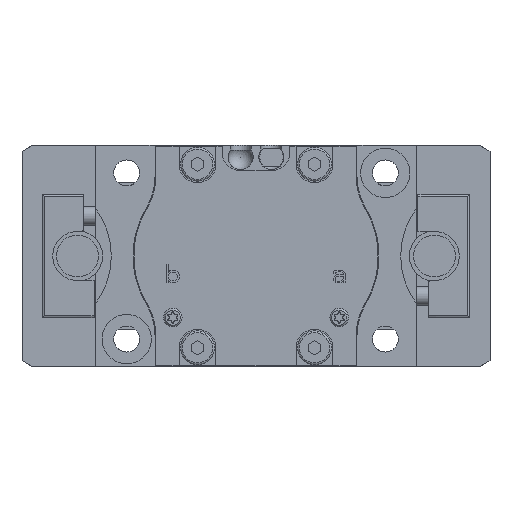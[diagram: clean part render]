
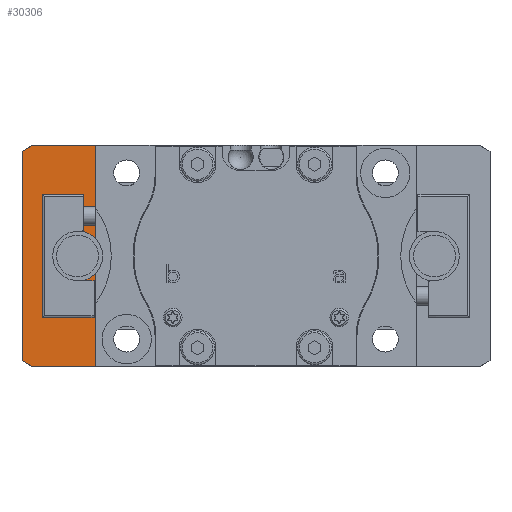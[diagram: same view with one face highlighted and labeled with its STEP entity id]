
A CAD part, front view. The second image highlights one B-rep face of the part: STEP entity #30306.
In plain terms, the highlighted planar face has unit normal (0, -1, 0).
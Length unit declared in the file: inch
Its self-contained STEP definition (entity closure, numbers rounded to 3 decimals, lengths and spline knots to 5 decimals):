
#656 = ORIENTED_EDGE ( 'NONE', *, *, #28326, .F. ) ;
#698 = EDGE_CURVE ( 'NONE', #37675, #8640, #46314, .T. ) ;
#1241 = CARTESIAN_POINT ( 'NONE',  ( -1.49606, 1.29921, 0.66929 ) ) ;
#1279 = EDGE_CURVE ( 'NONE', #57194, #10849, #21433, .T. ) ;
#2129 = EDGE_CURVE ( 'NONE', #17540, #57194, #50743, .T. ) ;
#3417 = CARTESIAN_POINT ( 'NONE',  ( -1.02362, 1.29921, 0.70866 ) ) ;
#3746 = DIRECTION ( 'NONE',  ( -1., 0., 0. ) ) ;
#4606 = ORIENTED_EDGE ( 'NONE', *, *, #2129, .T. ) ;
#5535 = VECTOR ( 'NONE', #29863, 39.37008 ) ;
#5962 = CIRCLE ( 'NONE', #33664, 0.16142 ) ;
#6484 = ORIENTED_EDGE ( 'NONE', *, *, #698, .F. ) ;
#6533 = LINE ( 'NONE', #11797, #5535 ) ;
#7501 = PLANE ( 'NONE',  #34185 ) ;
#7811 = CARTESIAN_POINT ( 'NONE',  ( -1.02362, 1.29921, 0.70866 ) ) ;
#8640 = VERTEX_POINT ( 'NONE', #11564 ) ;
#9159 = VECTOR ( 'NONE', #18352, 39.37008 ) ;
#10849 = VERTEX_POINT ( 'NONE', #29493 ) ;
#11207 = DIRECTION ( 'NONE',  ( 0., 1., 0. ) ) ;
#11564 = CARTESIAN_POINT ( 'NONE',  ( -1.42787, 1.29921, -0.70866 ) ) ;
#11797 = CARTESIAN_POINT ( 'NONE',  ( -1.02362, 1.29921, -0.11003 ) ) ;
#11860 = CARTESIAN_POINT ( 'NONE',  ( -1.49606, 1.29921, 0.66929 ) ) ;
#12286 = DIRECTION ( 'NONE',  ( -1., 0., 0. ) ) ;
#13388 = CARTESIAN_POINT ( 'NONE',  ( -1.42787, 1.29921, 0.70866 ) ) ;
#13509 = CARTESIAN_POINT ( 'NONE',  ( -1.02362, 1.29921, -0.70866 ) ) ;
#16904 = VECTOR ( 'NONE', #3746, 39.37008 ) ;
#17540 = VERTEX_POINT ( 'NONE', #60546 ) ;
#18352 = DIRECTION ( 'NONE',  ( 0., 0., -1. ) ) ;
#18793 = CARTESIAN_POINT ( 'NONE',  ( -1.02362, 1.29921, 0.11003 ) ) ;
#19798 = VECTOR ( 'NONE', #12286, 39.37008 ) ;
#21433 = LINE ( 'NONE', #1241, #58605 ) ;
#24595 = CARTESIAN_POINT ( 'NONE',  ( -1.02362, 1.29921, -0.11003 ) ) ;
#26252 = CARTESIAN_POINT ( 'NONE',  ( -1.02362, 1.29921, 0.70866 ) ) ;
#27089 = DIRECTION ( 'NONE',  ( 0., -1., 0. ) ) ;
#28326 = EDGE_CURVE ( 'NONE', #52326, #51425, #45967, .T. ) ;
#29493 = CARTESIAN_POINT ( 'NONE',  ( -1.49606, 1.29921, -0.66929 ) ) ;
#29803 = ORIENTED_EDGE ( 'NONE', *, *, #1279, .T. ) ;
#29863 = DIRECTION ( 'NONE',  ( 0., 0., -1. ) ) ;
#30306 = ADVANCED_FACE ( 'NONE', ( #40460 ), #7501, .T. ) ;
#32038 = ORIENTED_EDGE ( 'NONE', *, *, #35097, .T. ) ;
#32245 = ORIENTED_EDGE ( 'NONE', *, *, #48052, .T. ) ;
#32544 = DIRECTION ( 'NONE',  ( 0.732, 0., -0.682 ) ) ;
#33664 = AXIS2_PLACEMENT_3D ( 'NONE', #48839, #11207, #32544 ) ;
#34185 = AXIS2_PLACEMENT_3D ( 'NONE', #7811, #27089, #49824 ) ;
#35097 = EDGE_CURVE ( 'NONE', #47565, #51425, #5962, .T. ) ;
#35710 = DIRECTION ( 'NONE',  ( 0.866, 0., -0.5 ) ) ;
#37675 = VERTEX_POINT ( 'NONE', #13509 ) ;
#40460 = FACE_OUTER_BOUND ( 'NONE', #50764, .T. ) ;
#40770 = DIRECTION ( 'NONE',  ( -0.866, 0., -0.5 ) ) ;
#40771 = VECTOR ( 'NONE', #40770, 39.37008 ) ;
#40932 = LINE ( 'NONE', #45294, #53448 ) ;
#44307 = LINE ( 'NONE', #54956, #19798 ) ;
#45294 = CARTESIAN_POINT ( 'NONE',  ( -1.49606, 1.29921, -0.66929 ) ) ;
#45404 = ORIENTED_EDGE ( 'NONE', *, *, #59435, .F. ) ;
#45967 = LINE ( 'NONE', #3417, #9159 ) ;
#46314 = LINE ( 'NONE', #61324, #16904 ) ;
#47565 = VERTEX_POINT ( 'NONE', #24595 ) ;
#48052 = EDGE_CURVE ( 'NONE', #10849, #8640, #40932, .T. ) ;
#48250 = EDGE_CURVE ( 'NONE', #52326, #17540, #44307, .T. ) ;
#48443 = ORIENTED_EDGE ( 'NONE', *, *, #48250, .T. ) ;
#48755 = DIRECTION ( 'NONE',  ( 0., 0., -1. ) ) ;
#48839 = CARTESIAN_POINT ( 'NONE',  ( -1.14173, 1.29921, 0. ) ) ;
#49824 = DIRECTION ( 'NONE',  ( 0., 0., -1. ) ) ;
#50743 = LINE ( 'NONE', #13388, #40771 ) ;
#50764 = EDGE_LOOP ( 'NONE', ( #45404, #32038, #656, #48443, #4606, #29803, #32245, #6484 ) ) ;
#51425 = VERTEX_POINT ( 'NONE', #18793 ) ;
#52326 = VERTEX_POINT ( 'NONE', #26252 ) ;
#53448 = VECTOR ( 'NONE', #35710, 39.37008 ) ;
#54956 = CARTESIAN_POINT ( 'NONE',  ( -1.02362, 1.29921, 0.70866 ) ) ;
#57194 = VERTEX_POINT ( 'NONE', #11860 ) ;
#58605 = VECTOR ( 'NONE', #48755, 39.37008 ) ;
#59435 = EDGE_CURVE ( 'NONE', #47565, #37675, #6533, .T. ) ;
#60546 = CARTESIAN_POINT ( 'NONE',  ( -1.42787, 1.29921, 0.70866 ) ) ;
#61324 = CARTESIAN_POINT ( 'NONE',  ( -1.02362, 1.29921, -0.70866 ) ) ;
